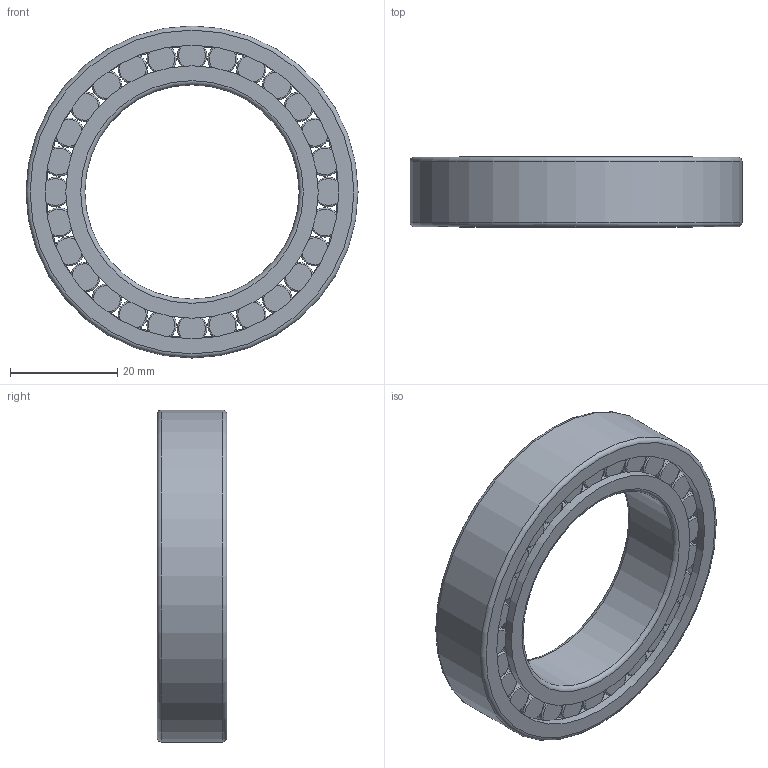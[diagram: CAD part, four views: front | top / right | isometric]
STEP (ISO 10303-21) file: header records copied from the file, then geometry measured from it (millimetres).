
FILE_DESCRIPTION(/* description */ (''),/* implementation_level */ '2;1');
FILE_NAME(/* name */ 'C:\Users\OUREHANEKD\Desktop\Ložiská\MODELY\JRVL\NCF\NCF29\NCF29--\NCF2908V.stp',/* time_stamp */ '2016-09-09T09:50:00+02:00',/* author */ ('OUREHANEKD'),/* organization */ (''),/* preprocessor_version */ 'ST-DEVELOPER v15.6',/* originating_system */ 'Autodesk Inventor 2015',/* authorisation */ '');
FILE_SCHEMA (('AUTOMOTIVE_DESIGN { 1 0 10303 214 3 1 1 }'));
Length unit declared in the file: millimetre
Products named in the file (5): NCF2908V-01; NCF2908V-02; NCF2908V-kr; NCF2908V-roller; NCF2908V
Assembly tree (31 placements, depth 2):
  NCF2908V
    NCF2908V-01
    NCF2908V-02
    NCF2908V-kr
    NCF2908V-roller  x28
Bounding box: 62 x 13 x 62 mm (x, y, z)
Volume: 18573.5 mm3; surface area: 17482.8 mm2
Topology: 31 solids, 31 shells, 167 faces, 239 edges, 139 vertices
Faces by surface type: plane 67, torus 61, cylinder 39
Full cylindrical faces by diameter (mm): 5.5 x28, 40 x1, 45.5 x1, 47.15 x2, 54.52 x1, 54.85 x1, 56.5 x2, 57.5 x2, 62 x1
Entity records: 1008 total; most frequent: DIRECTION 198, CARTESIAN_POINT 130, AXIS2_PLACEMENT_3D 99, EDGE_LOOP 62, ORIENTED_EDGE 62, STYLED_ITEM 36, PRODUCT_DEFINITION_SHAPE 36, FACE_OUTER_BOUND 32
